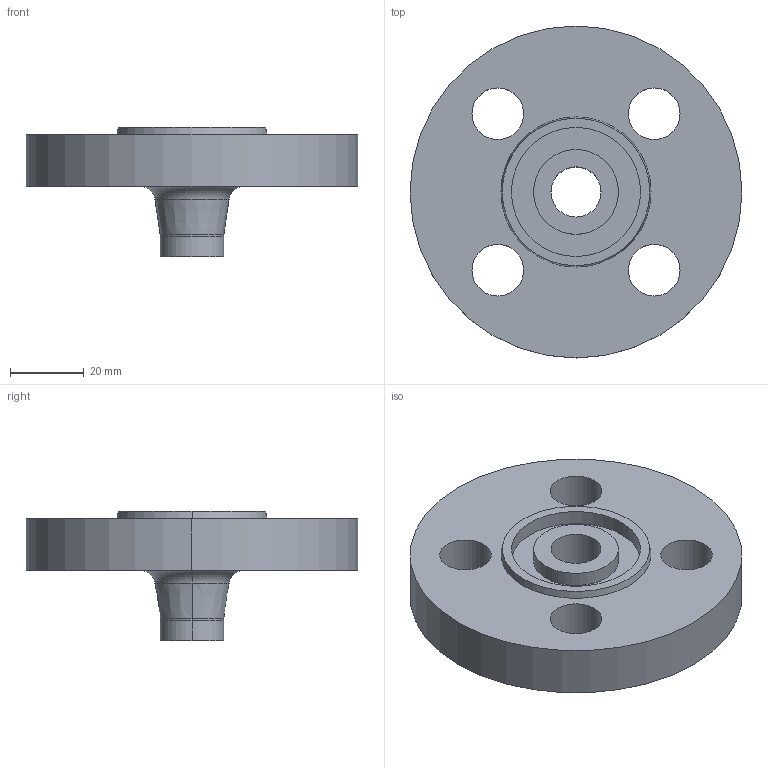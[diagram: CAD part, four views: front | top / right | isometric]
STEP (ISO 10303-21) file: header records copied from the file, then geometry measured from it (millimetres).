
FILE_DESCRIPTION (( 'STEP AP214' ), '1' );
FILE_NAME ('PN40 DN10 Type 11 - Type D Face.STEP', '2018-12-29T05:11:53', ( '' ), ( '' ), 'SwSTEP 2.0', 'SolidWorks 2019', '' );
FILE_SCHEMA (( 'AUTOMOTIVE_DESIGN' ));
Length unit declared in the file: millimetre
Products named in the file (1): PN40 DN10 Type 11 - Type D Face
Bounding box: 90 x 90 x 35 mm (x, y, z)
Volume: 81065.7 mm3; surface area: 20984.6 mm2
Topology: 1 solids, 1 shells, 32 faces, 72 edges, 46 vertices
Faces by surface type: cylinder 18, plane 6, torus 4, cone 4
Entity records: 972 total; most frequent: DIRECTION 188, CARTESIAN_POINT 151, ORIENTED_EDGE 144, AXIS2_PLACEMENT_3D 83, EDGE_CURVE 72, CIRCLE 50, VERTEX_POINT 46, EDGE_LOOP 46
